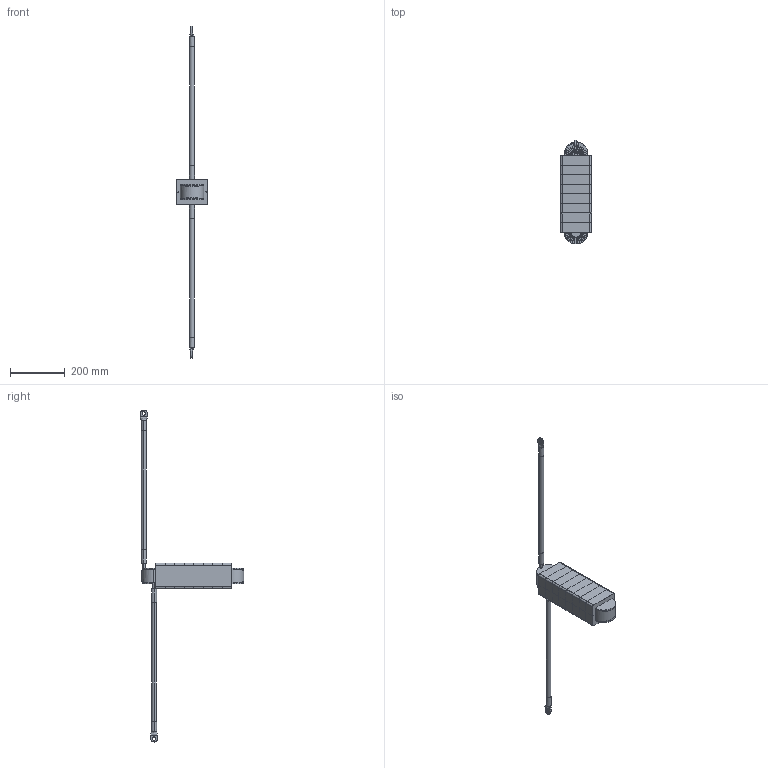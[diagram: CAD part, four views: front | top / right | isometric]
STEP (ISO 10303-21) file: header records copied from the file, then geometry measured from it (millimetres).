
FILE_DESCRIPTION (( 'STEP AP214' ), '1' );
FILE_NAME ('CWS-1EE-12720.STEP', '2022-05-25T12:49:56', ( '' ), ( '' ), 'SwSTEP 2.0', 'SolidWorks 2015', '' );
FILE_SCHEMA (( 'AUTOMOTIVE_DESIGN' ));
Length unit declared in the file: inch
Products named in the file (6): COIL WRAPPER; WINDING SUPPORT; CORE; WRAPPER; CWS-1EE-12720; WINDING
Assembly tree (5 placements, depth 2):
  CWS-1EE-12720
    CORE
    WINDING
    WINDING SUPPORT
    COIL WRAPPER
    WRAPPER
Bounding box: 115.01 x 378.85 x 1214.12 mm (x, y, z)
Volume: 3159507 mm3; surface area: 1967161.5 mm2
Topology: 24 solids, 24 shells, 653 faces, 1746 edges, 1164 vertices
Faces by surface type: plane 437, cylinder 151, bspline 65
Entity records: 29300 total; most frequent: CARTESIAN_POINT 8463, ORIENTED_EDGE 3492, DIRECTION 3084, EDGE_CURVE 1746, LINE 1324, VECTOR 1324, VERTEX_POINT 1164, AXIS2_PLACEMENT_3D 880
